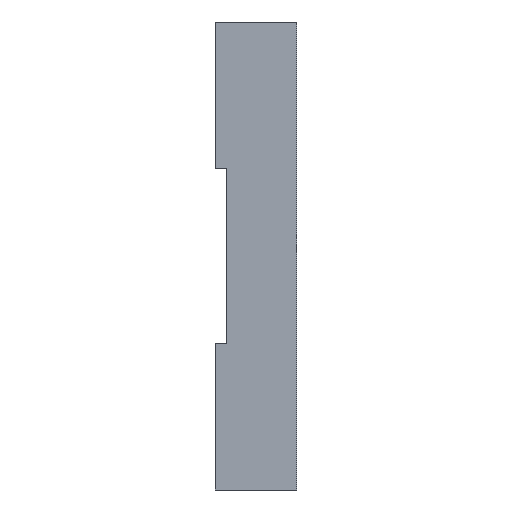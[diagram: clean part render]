
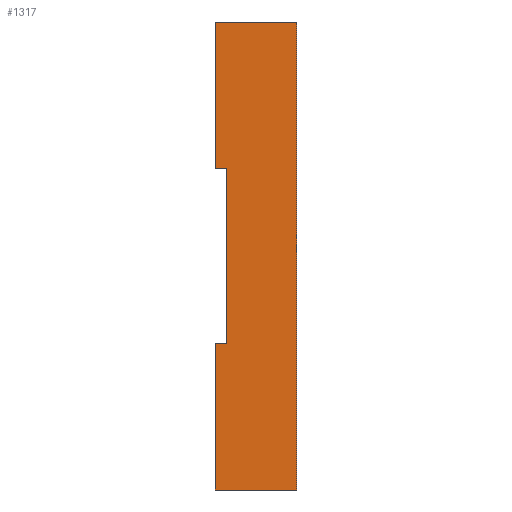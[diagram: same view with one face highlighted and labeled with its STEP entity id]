
A CAD part, left-side view. The second image highlights one B-rep face of the part: STEP entity #1317.
In plain terms, the highlighted planar face has unit normal (-1, 0, 0).
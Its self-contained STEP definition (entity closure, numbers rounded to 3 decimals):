
#37 = EDGE_LOOP ( 'NONE', ( #1986, #1995, #1996, #1972, #2015, #1982, #2013, #1997 ) ) ;
#275 = LINE ( 'NONE', #683, #294 ) ;
#289 = LINE ( 'NONE', #704, #292 ) ;
#291 = LINE ( 'NONE', #689, #296 ) ;
#292 = VECTOR ( 'NONE', #706, 1000. ) ;
#293 = LINE ( 'NONE', #705, #306 ) ;
#294 = VECTOR ( 'NONE', #707, 1000. ) ;
#295 = LINE ( 'NONE', #710, #298 ) ;
#296 = VECTOR ( 'NONE', #709, 1000. ) ;
#297 = LINE ( 'NONE', #712, #300 ) ;
#298 = VECTOR ( 'NONE', #711, 1000. ) ;
#299 = LINE ( 'NONE', #714, #302 ) ;
#300 = VECTOR ( 'NONE', #713, 1000. ) ;
#301 = LINE ( 'NONE', #716, #304 ) ;
#302 = VECTOR ( 'NONE', #715, 1000. ) ;
#304 = VECTOR ( 'NONE', #718, 1000. ) ;
#306 = VECTOR ( 'NONE', #719, 1000. ) ;
#418 = FACE_OUTER_BOUND ( 'NONE', #37, .T. ) ;
#603 = AXIS2_PLACEMENT_3D ( 'NONE', #775, #783, #784 ) ;
#683 = CARTESIAN_POINT ( 'NONE',  ( -59., 14., 40. ) ) ;
#689 = CARTESIAN_POINT ( 'NONE',  ( -59., 0., -40. ) ) ;
#704 = CARTESIAN_POINT ( 'NONE',  ( -59., 0., -15. ) ) ;
#705 = CARTESIAN_POINT ( 'NONE',  ( -59., 12., 40. ) ) ;
#706 = DIRECTION ( 'NONE',  ( 0., -1., 0. ) ) ;
#707 = DIRECTION ( 'NONE',  ( 0., 0., -1. ) ) ;
#709 = DIRECTION ( 'NONE',  ( 0., -1., 0. ) ) ;
#710 = CARTESIAN_POINT ( 'NONE',  ( -59., 0., 40. ) ) ;
#711 = DIRECTION ( 'NONE',  ( 0., 0., -1. ) ) ;
#712 = CARTESIAN_POINT ( 'NONE',  ( -59., 0., 40. ) ) ;
#713 = DIRECTION ( 'NONE',  ( 0., -1., 0. ) ) ;
#714 = CARTESIAN_POINT ( 'NONE',  ( -59., 14., 40. ) ) ;
#715 = DIRECTION ( 'NONE',  ( 0., 0., -1. ) ) ;
#716 = CARTESIAN_POINT ( 'NONE',  ( -59., 0., 15. ) ) ;
#718 = DIRECTION ( 'NONE',  ( 0., 1., 0. ) ) ;
#719 = DIRECTION ( 'NONE',  ( 0., 0., -1. ) ) ;
#775 = CARTESIAN_POINT ( 'NONE',  ( -59., 0., 40. ) ) ;
#780 = PLANE ( 'NONE',  #603 ) ;
#783 = DIRECTION ( 'NONE',  ( 1., 0., 0. ) ) ;
#784 = DIRECTION ( 'NONE',  ( 0., 0., -1. ) ) ;
#889 = VERTEX_POINT ( 'NONE', #1600 ) ;
#926 = VERTEX_POINT ( 'NONE', #1651 ) ;
#944 = VERTEX_POINT ( 'NONE', #1669 ) ;
#954 = VERTEX_POINT ( 'NONE', #1679 ) ;
#957 = VERTEX_POINT ( 'NONE', #1682 ) ;
#958 = VERTEX_POINT ( 'NONE', #1683 ) ;
#959 = VERTEX_POINT ( 'NONE', #1684 ) ;
#968 = VERTEX_POINT ( 'NONE', #1693 ) ;
#1262 = EDGE_CURVE ( 'NONE', #926, #954, #289, .T. ) ;
#1263 = EDGE_CURVE ( 'NONE', #926, #968, #275, .T. ) ;
#1264 = EDGE_CURVE ( 'NONE', #968, #959, #291, .T. ) ;
#1265 = EDGE_CURVE ( 'NONE', #958, #959, #295, .T. ) ;
#1266 = EDGE_CURVE ( 'NONE', #957, #958, #297, .T. ) ;
#1267 = EDGE_CURVE ( 'NONE', #957, #889, #299, .T. ) ;
#1268 = EDGE_CURVE ( 'NONE', #944, #889, #301, .T. ) ;
#1269 = EDGE_CURVE ( 'NONE', #944, #954, #293, .T. ) ;
#1317 = ADVANCED_FACE ( 'NONE', ( #418 ), #780, .F. ) ;
#1600 = CARTESIAN_POINT ( 'NONE',  ( -59., 14., 15. ) ) ;
#1651 = CARTESIAN_POINT ( 'NONE',  ( -59., 14., -15. ) ) ;
#1669 = CARTESIAN_POINT ( 'NONE',  ( -59., 12., 15. ) ) ;
#1679 = CARTESIAN_POINT ( 'NONE',  ( -59., 12., -15. ) ) ;
#1682 = CARTESIAN_POINT ( 'NONE',  ( -59., 14., 40. ) ) ;
#1683 = CARTESIAN_POINT ( 'NONE',  ( -59., 0., 40. ) ) ;
#1684 = CARTESIAN_POINT ( 'NONE',  ( -59., 0., -40. ) ) ;
#1693 = CARTESIAN_POINT ( 'NONE',  ( -59., 14., -40. ) ) ;
#1972 = ORIENTED_EDGE ( 'NONE', *, *, #1265, .F. ) ;
#1982 = ORIENTED_EDGE ( 'NONE', *, *, #1267, .T. ) ;
#1986 = ORIENTED_EDGE ( 'NONE', *, *, #1262, .F. ) ;
#1995 = ORIENTED_EDGE ( 'NONE', *, *, #1263, .T. ) ;
#1996 = ORIENTED_EDGE ( 'NONE', *, *, #1264, .T. ) ;
#1997 = ORIENTED_EDGE ( 'NONE', *, *, #1269, .T. ) ;
#2013 = ORIENTED_EDGE ( 'NONE', *, *, #1268, .F. ) ;
#2015 = ORIENTED_EDGE ( 'NONE', *, *, #1266, .F. ) ;
